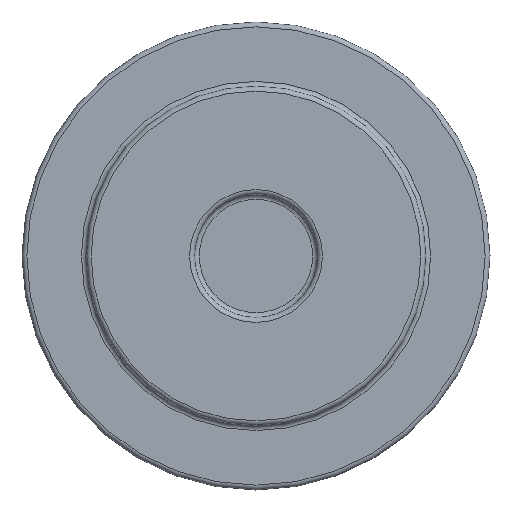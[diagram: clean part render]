
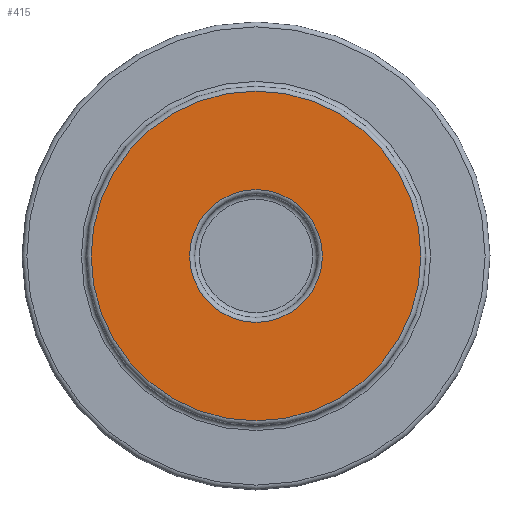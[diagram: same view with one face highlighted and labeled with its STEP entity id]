
A CAD part, front view. The second image highlights one B-rep face of the part: STEP entity #415.
In plain terms, the highlighted planar face has unit normal (0, -1, 0).
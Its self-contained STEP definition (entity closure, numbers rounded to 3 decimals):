
#348 = TOROIDAL_SURFACE('',#349,13.6,0.4);
#349 = AXIS2_PLACEMENT_3D('',#350,#351,#352);
#350 = CARTESIAN_POINT('',(-44.,-23.1,23.));
#351 = DIRECTION('',(0.,-1.,0.));
#352 = DIRECTION('',(0.,0.,-1.));
#366 = VERTEX_POINT('',#367);
#367 = CARTESIAN_POINT('',(-44.,-23.5,9.4));
#389 = EDGE_CURVE('',#366,#366,#390,.T.);
#390 = SURFACE_CURVE('',#391,(#396,#403),.PCURVE_S1.);
#391 = CIRCLE('',#392,13.6);
#392 = AXIS2_PLACEMENT_3D('',#393,#394,#395);
#393 = CARTESIAN_POINT('',(-44.,-23.5,23.));
#394 = DIRECTION('',(0.,-1.,0.));
#395 = DIRECTION('',(0.,0.,-1.));
#396 = PCURVE('',#348,#397);
#397 = DEFINITIONAL_REPRESENTATION('',(#398),#402);
#398 = LINE('',#399,#400);
#399 = CARTESIAN_POINT('',(0.,1.571));
#400 = VECTOR('',#401,1.);
#401 = DIRECTION('',(1.,0.));
#402 = ( GEOMETRIC_REPRESENTATION_CONTEXT(2) 
PARAMETRIC_REPRESENTATION_CONTEXT() REPRESENTATION_CONTEXT('2D SPACE',''
  ) );
#403 = PCURVE('',#404,#409);
#404 = PLANE('',#405);
#405 = AXIS2_PLACEMENT_3D('',#406,#407,#408);
#406 = CARTESIAN_POINT('',(-44.,-23.5,23.));
#407 = DIRECTION('',(0.,-1.,0.));
#408 = DIRECTION('',(0.,-0.,-1.));
#409 = DEFINITIONAL_REPRESENTATION('',(#410),#414);
#410 = CIRCLE('',#411,13.6);
#411 = AXIS2_PLACEMENT_2D('',#412,#413);
#412 = CARTESIAN_POINT('',(0.,0.));
#413 = DIRECTION('',(1.,0.));
#414 = ( GEOMETRIC_REPRESENTATION_CONTEXT(2) 
PARAMETRIC_REPRESENTATION_CONTEXT() REPRESENTATION_CONTEXT('2D SPACE',''
  ) );
#415 = ADVANCED_FACE('',(#416,#419),#404,.T.);
#416 = FACE_BOUND('',#417,.T.);
#417 = EDGE_LOOP('',(#418));
#418 = ORIENTED_EDGE('',*,*,#389,.T.);
#419 = FACE_BOUND('',#420,.T.);
#420 = EDGE_LOOP('',(#421));
#421 = ORIENTED_EDGE('',*,*,#422,.F.);
#422 = EDGE_CURVE('',#423,#423,#425,.T.);
#423 = VERTEX_POINT('',#424);
#424 = CARTESIAN_POINT('',(-44.,-23.5,17.525));
#425 = SURFACE_CURVE('',#426,(#431,#438),.PCURVE_S1.);
#426 = CIRCLE('',#427,5.475);
#427 = AXIS2_PLACEMENT_3D('',#428,#429,#430);
#428 = CARTESIAN_POINT('',(-44.,-23.5,23.));
#429 = DIRECTION('',(0.,-1.,0.));
#430 = DIRECTION('',(0.,0.,-1.));
#431 = PCURVE('',#404,#432);
#432 = DEFINITIONAL_REPRESENTATION('',(#433),#437);
#433 = CIRCLE('',#434,5.475);
#434 = AXIS2_PLACEMENT_2D('',#435,#436);
#435 = CARTESIAN_POINT('',(0.,0.));
#436 = DIRECTION('',(1.,0.));
#437 = ( GEOMETRIC_REPRESENTATION_CONTEXT(2) 
PARAMETRIC_REPRESENTATION_CONTEXT() REPRESENTATION_CONTEXT('2D SPACE',''
  ) );
#438 = PCURVE('',#439,#444);
#439 = TOROIDAL_SURFACE('',#440,5.475,0.4);
#440 = AXIS2_PLACEMENT_3D('',#441,#442,#443);
#441 = CARTESIAN_POINT('',(-44.,-23.1,23.));
#442 = DIRECTION('',(0.,-1.,0.));
#443 = DIRECTION('',(0.,0.,-1.));
#444 = DEFINITIONAL_REPRESENTATION('',(#445),#449);
#445 = LINE('',#446,#447);
#446 = CARTESIAN_POINT('',(0.,1.571));
#447 = VECTOR('',#448,1.);
#448 = DIRECTION('',(1.,0.));
#449 = ( GEOMETRIC_REPRESENTATION_CONTEXT(2) 
PARAMETRIC_REPRESENTATION_CONTEXT() REPRESENTATION_CONTEXT('2D SPACE',''
  ) );
